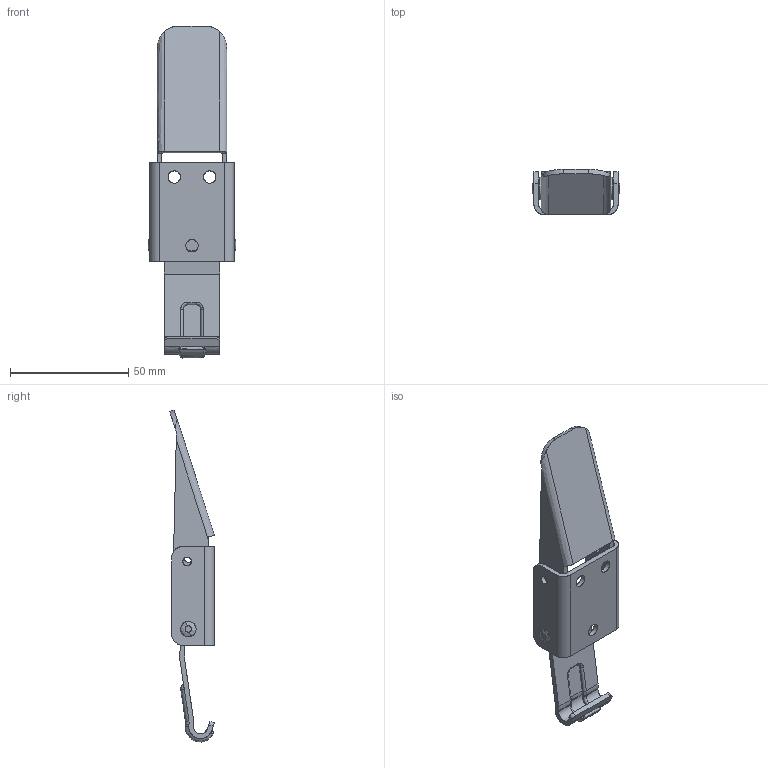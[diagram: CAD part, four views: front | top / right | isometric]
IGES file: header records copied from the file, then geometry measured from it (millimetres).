
Start section: SolidWorks IGES FILE using analytic representation for surfaces
Global section: file name: C:\Documents and Settings\brechard\Bureau\GE 84\GE 84.IGS; native system: SolidWorks 2001Plus by SolidWorks Corporation; preprocessor: Version 5.3; author: brechard; date: 050126.111407; units: millimetre
Bounding box: 36.9 x 18.9 x 140.16 mm (x, y, z)
Surface area: 19871.2 mm2 (no closed solid volume)
Topology: 0 solids, 0 shells, 214 faces, 3716 edges, 3714 vertices
Faces by surface type: revolution 124, bspline 90
